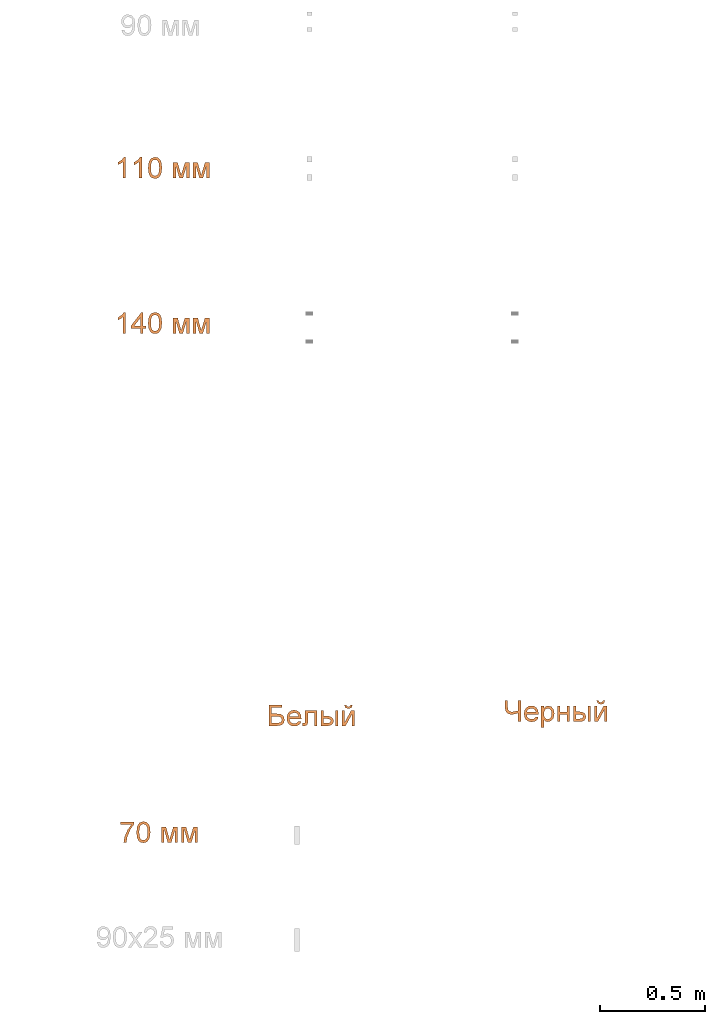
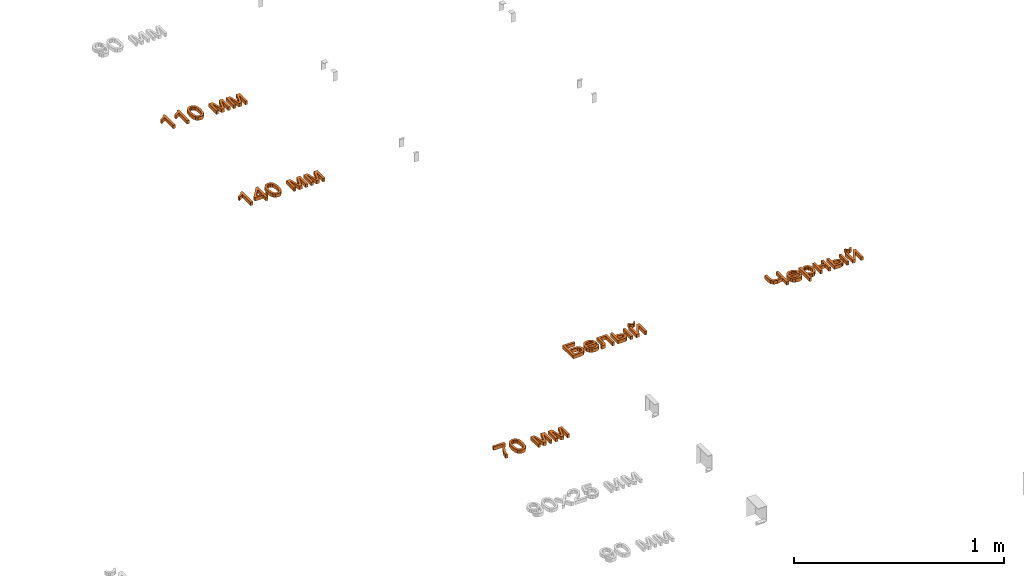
# One storey, part 46 of 87: 5 proxies.
"""IFC2X3 building model written with IfcOpenShell, lengths in millimetres."""

from ifc_helpers import new_model, entity, si_unit, converted_unit, derived_unit, direction, frame, frame_2d, origin, place, context, subcontext, project, spatial, polyline, rectangle, outline, extrude, element, save


model = new_model("IFC2X3")

# Units and contexts
model_context = context("Model", 3, precision=0.01, world=origin(), true_north=direction((6.12303176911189e-17, 1.0)))
body_context = subcontext(model_context, "Body", "Model", "MODEL_VIEW")
ifc_project = project(units=[si_unit("LENGTHUNIT", "METRE", prefix="MILLI"), si_unit("AREAUNIT", "SQUARE_METRE"), si_unit("VOLUMEUNIT", "CUBIC_METRE"), converted_unit("PLANEANGLEUNIT", "DEGREE", entity("IfcRatioMeasure", 0.0174532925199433), si_unit("PLANEANGLEUNIT", "RADIAN"), dimensions=[0, 0, 0, 0, 0, 0, 0]), si_unit("MASSUNIT", "GRAM", prefix="KILO"), derived_unit("MASSDENSITYUNIT", [(si_unit("MASSUNIT", "GRAM", prefix="KILO"), 1), (si_unit("LENGTHUNIT", "METRE"), -3)]), si_unit("TIMEUNIT", "SECOND"), si_unit("FREQUENCYUNIT", "HERTZ"), si_unit("THERMODYNAMICTEMPERATUREUNIT", "DEGREE_CELSIUS"), derived_unit("THERMALTRANSMITTANCEUNIT", [(si_unit("MASSUNIT", "GRAM", prefix="KILO"), 1), (si_unit("THERMODYNAMICTEMPERATUREUNIT", "KELVIN"), -1), (si_unit("TIMEUNIT", "SECOND"), -3)]), derived_unit("VOLUMETRICFLOWRATEUNIT", [(si_unit("LENGTHUNIT", "METRE"), 3), (si_unit("TIMEUNIT", "SECOND"), -1)]), si_unit("ELECTRICCURRENTUNIT", "AMPERE"), si_unit("ELECTRICVOLTAGEUNIT", "VOLT"), si_unit("POWERUNIT", "WATT"), si_unit("FORCEUNIT", "NEWTON", prefix="KILO"), si_unit("ILLUMINANCEUNIT", "LUX"), si_unit("LUMINOUSFLUXUNIT", "LUMEN"), si_unit("LUMINOUSINTENSITYUNIT", "CANDELA"), derived_unit("USERDEFINED", [(si_unit("MASSUNIT", "GRAM", prefix="KILO"), -1), (si_unit("LENGTHUNIT", "METRE"), -2), (si_unit("TIMEUNIT", "SECOND"), 3), (si_unit("LUMINOUSFLUXUNIT", "LUMEN"), 1)]), derived_unit("LINEARVELOCITYUNIT", [(si_unit("LENGTHUNIT", "METRE"), 1), (si_unit("TIMEUNIT", "SECOND"), -1)]), si_unit("PRESSUREUNIT", "PASCAL"), derived_unit("USERDEFINED", [(si_unit("LENGTHUNIT", "METRE"), -2), (si_unit("MASSUNIT", "GRAM", prefix="KILO"), 1), (si_unit("TIMEUNIT", "SECOND"), -2)])], contexts=[model_context])

# Site, building, storey
site_placement = place(None, origin())
site = spatial("IfcSite", under=ifc_project, at=site_placement, Name="Default", CompositionType="ELEMENT")
building_placement = place(site_placement, origin())
building = spatial("IfcBuilding", under=site, at=building_placement, Name="Наименование здания", CompositionType="ELEMENT")
storey_placement = place(building_placement, origin())
storey = spatial("IfcBuildingStorey", under=building, at=storey_placement, Name="Этаж 01", CompositionType="ELEMENT", Elevation=0.0)

# Proxies
proxy_1_placement = place(storey_placement, origin())
element("IfcBuildingElementProxy", 1, at=proxy_1_placement, inside=storey, Name="Текст модели:100 мм Arial", ObjectType="Текст модели:100 мм Arial", context=body_context, shape_type="SweptSolid", body=[
    extrude(outline(polyline([(-63.8793021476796, -16.918484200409), (36.5770080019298, -16.918484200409), (36.5770080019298, -8.825080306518), (23.2106288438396, 2.34626961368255), (11.4629304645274, 20.7526321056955), (-0.407395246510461, 20.7526321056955), (5.93243780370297, 7.53340574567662), (14.4059864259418, -4.36144543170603), (-63.8793021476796, -4.36144543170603), (-63.8793021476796, -16.918484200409)])), frame((12210.6706839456, -1090.83349704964, 0.0), z_axis=(0.0, 0.0, 1.0), x_axis=(0.0, 1.0, 0.0)), (0.0, 0.0, 1.0), 20.0),
    extrude(outline(polyline([(-63.8793021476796, -16.9184842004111), (36.5770080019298, -16.9184842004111), (36.5770080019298, -8.82508030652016), (23.2106288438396, 2.34626961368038), (11.4629304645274, 20.7526321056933), (-0.407395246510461, 20.7526321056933), (5.93243780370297, 7.53340574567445), (14.4059864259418, -4.3614454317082), (-63.8793021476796, -4.3614454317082), (-63.8793021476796, -16.9184842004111)])), frame((12287.5825464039, -1090.83349704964, 0.0), z_axis=(0.0, 0.0, 1.0), x_axis=(0.0, 1.0, 0.0)), (0.0, 0.0, 1.0), 20.0),
    extrude(outline(polyline([(-7.02884310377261, -33.3490673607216), (17.5323805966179, -33.3490673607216), (35.1984171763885, -27.6137612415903), (43.343984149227, -18.4876517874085), (47.0516941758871, -5.75150665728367), (46.716202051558, 4.48638208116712), (43.4465778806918, 13.0955287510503), (27.9444305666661, 25.6659118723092), (-0.314338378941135, 32.2325535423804), (-24.0296505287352, 32.367828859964), (-39.4143020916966, 28.026088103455), (-49.7293680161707, 18.9002174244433), (-54.4436715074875, 4.63998875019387), (-50.8676582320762, -14.1301059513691), (-35.4058547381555, -26.7333390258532), (-7.02884310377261, -33.3490673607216)]), holes=[polyline([(-5.77428774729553, -20.8548320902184), (-25.0157644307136, -17.3562860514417), (-36.7257089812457, -11.5717922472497), (-41.0962588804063, -4.77599682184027), (-41.9669219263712, 3.21464792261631), (-39.2244253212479, 11.2791292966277), (-32.865406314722, 17.2229259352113), (-20.9698370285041, 20.2947501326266), (-1.61768958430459, 19.7433141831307), (17.8514140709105, 16.2707701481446), (28.7803640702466, 10.7141596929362), (33.5546988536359, 3.61815959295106), (34.5599568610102, -4.47255337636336), (31.9421230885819, -12.1923199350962), (25.8471825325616, -18.1754808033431), (14.0250679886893, -21.4027476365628), (-5.77428774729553, -20.8548320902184)])]), frame((12368.2155352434, -1108.88962225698, 0.0), z_axis=(0.0, 0.0, 1.0), x_axis=(0.1018515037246, -0.994799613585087, 0.0)), (0.0, 0.0, 1.0), 20.0),
    extrude(outline(polyline([(-40.5839870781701, -38.4502715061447), (33.1886156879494, -38.4502715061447), (33.1886156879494, -25.893232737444), (-29.0570178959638, -25.893232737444), (33.1886156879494, -8.6273044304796), (33.1886156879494, 7.85380895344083), (-26.21206379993, 25.9045521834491), (33.1886156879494, 25.9045521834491), (33.1886156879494, 38.4615909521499), (-40.5839870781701, 38.4615909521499), (-40.5839870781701, 17.7620973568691), (18.4733358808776, -0.190544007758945), (-40.5839870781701, -16.8433356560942), (-40.5839870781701, -38.4502715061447)])), frame((12492.0661374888, -1121.52418350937, 0.0), z_axis=(0.0, 0.0, 1.0), x_axis=(0.0, -1.0, 0.0)), (0.0, 0.0, 1.0), 20.0),
    extrude(outline(polyline([(-40.5839870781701, -38.4502715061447), (33.1886156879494, -38.4502715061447), (33.1886156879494, -25.893232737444), (-29.0570178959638, -25.893232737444), (33.1886156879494, -8.6273044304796), (33.1886156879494, 7.85380895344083), (-26.21206379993, 25.9045521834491), (33.1886156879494, 25.9045521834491), (33.1886156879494, 38.4615909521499), (-40.5839870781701, 38.4615909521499), (-40.5839870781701, 17.7620973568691), (18.4733358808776, -0.190544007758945), (-40.5839870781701, -16.8433356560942), (-40.5839870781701, -38.4502715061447)])), frame((12587.8135581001, -1121.52418350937, 0.0), z_axis=(0.0, 0.0, 1.0), x_axis=(0.0, -1.0, 0.0)), (0.0, 0.0, 1.0), 20.0),
])
proxy_2_placement = place(storey_placement, origin())
element("IfcBuildingElementProxy", 2, at=proxy_2_placement, inside=storey, Name="Текст модели:100 мм Arial", ObjectType="Текст модели:100 мм Arial", context=body_context, shape_type="SweptSolid", body=[
    extrude(outline(polyline([(-63.8793021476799, -16.918484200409), (36.5770080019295, -16.918484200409), (36.5770080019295, -8.825080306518), (23.2106288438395, 2.34626961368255), (11.4629304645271, 20.7526321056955), (-0.407395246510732, 20.7526321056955), (5.93243780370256, 7.53340574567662), (14.4059864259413, -4.36144543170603), (-63.8793021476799, -4.36144543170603), (-63.8793021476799, -16.918484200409)])), frame((12210.6706839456, -1830.83349704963, 0.0), z_axis=(0.0, 0.0, 1.0), x_axis=(0.0, 1.0, 0.0)), (0.0, 0.0, 1.0), 20.0),
    extrude(outline(polyline([(-1.14154897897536, -36.3868737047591), (11.4154897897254, -36.3868737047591), (11.4154897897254, -12.8424260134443), (23.9725285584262, -12.8424260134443), (23.9725285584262, -0.285387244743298), (11.4154897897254, -0.285387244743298), (11.4154897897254, 62.4998065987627), (1.99771071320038, 62.4998065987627), (-46.660814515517, -0.285387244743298), (-46.660814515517, -12.8424260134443), (-1.14154897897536, -12.8424260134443), (-1.14154897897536, -36.3868737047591)]), holes=[polyline([(-1.14154897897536, -0.285387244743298), (-31.2097707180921, -0.285387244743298), (-1.14154897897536, 38.5139005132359), (-1.14154897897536, -0.285387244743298)])]), frame((12299.3640601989, -1858.32592549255, 0.0)), (0.0, 0.0, 1.0), 20.0),
    extrude(outline(polyline([(-7.02884310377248, -33.3490673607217), (17.532380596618, -33.3490673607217), (35.1984171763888, -27.6137612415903), (43.3439841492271, -18.4876517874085), (47.0516941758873, -5.75150665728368), (46.7162020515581, 4.48638208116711), (43.4465778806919, 13.0955287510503), (27.9444305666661, 25.6659118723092), (-0.314338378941, 32.2325535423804), (-24.0296505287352, 32.367828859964), (-39.4143020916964, 28.026088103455), (-49.7293680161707, 18.9002174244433), (-54.4436715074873, 4.63998875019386), (-50.867658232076, -14.1301059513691), (-35.4058547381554, -26.7333390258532), (-7.02884310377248, -33.3490673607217)]), holes=[polyline([(-5.77428774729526, -20.8548320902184), (-25.0157644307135, -17.3562860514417), (-36.7257089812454, -11.5717922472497), (-41.0962588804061, -4.77599682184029), (-41.966921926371, 3.21464792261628), (-39.2244253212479, 11.2791292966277), (-32.865406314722, 17.2229259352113), (-20.9698370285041, 20.2947501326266), (-1.61768958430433, 19.7433141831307), (17.8514140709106, 16.2707701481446), (28.7803640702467, 10.7141596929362), (33.554698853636, 3.61815959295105), (34.5599568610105, -4.47255337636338), (31.9421230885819, -12.1923199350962), (25.8471825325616, -18.1754808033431), (14.0250679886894, -21.4027476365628), (-5.77428774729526, -20.8548320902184)])]), frame((12368.2155352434, -1848.88962225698, 0.0), z_axis=(0.0, 0.0, 1.0), x_axis=(0.1018515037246, -0.994799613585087, 0.0)), (0.0, 0.0, 1.0), 20.0),
    extrude(outline(polyline([(-40.5839870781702, -38.4502715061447), (33.1886156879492, -38.4502715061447), (33.1886156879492, -25.893232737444), (-29.0570178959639, -25.893232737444), (33.1886156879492, -8.6273044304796), (33.1886156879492, 7.85380895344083), (-26.2120637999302, 25.9045521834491), (33.1886156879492, 25.9045521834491), (33.1886156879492, 38.4615909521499), (-40.5839870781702, 38.4615909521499), (-40.5839870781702, 17.7620973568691), (18.4733358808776, -0.190544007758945), (-40.5839870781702, -16.8433356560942), (-40.5839870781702, -38.4502715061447)])), frame((12492.0661374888, -1861.52418350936, 0.0), z_axis=(0.0, 0.0, 1.0), x_axis=(0.0, -1.0, 0.0)), (0.0, 0.0, 1.0), 20.0),
    extrude(outline(polyline([(-40.5839870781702, -38.4502715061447), (33.1886156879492, -38.4502715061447), (33.1886156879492, -25.893232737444), (-29.0570178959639, -25.893232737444), (33.1886156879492, -8.6273044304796), (33.1886156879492, 7.85380895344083), (-26.2120637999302, 25.9045521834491), (33.1886156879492, 25.9045521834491), (33.1886156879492, 38.4615909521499), (-40.5839870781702, 38.4615909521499), (-40.5839870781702, 17.7620973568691), (18.4733358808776, -0.190544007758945), (-40.5839870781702, -16.8433356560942), (-40.5839870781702, -38.4502715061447)])), frame((12587.8135581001, -1861.52418350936, 0.0), z_axis=(0.0, 0.0, 1.0), x_axis=(0.0, -1.0, 0.0)), (0.0, 0.0, 1.0), 20.0),
])
proxy_3_placement = place(storey_placement, origin())
element("IfcBuildingElementProxy", 3, at=proxy_3_placement, inside=storey, Name="Текст модели:100 мм Arial", ObjectType="Текст модели:100 мм Arial", context=body_context, shape_type="SweptSolid", body=[
    extrude(outline(polyline([(-50.9950475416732, -42.7620371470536), (49.4612626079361, -42.7620371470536), (49.4612626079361, -4.42873324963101), (45.2428823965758, 17.8649156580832), (34.3658380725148, 27.7118903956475), (20.055228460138, 31.0105656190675), (3.57411507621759, 26.3752524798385), (-6.06439319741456, 14.0389429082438), (-8.61504169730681, -6.68507615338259), (-8.61504169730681, -30.2049983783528), (-38.4380087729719, -30.2049983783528), (-38.4380087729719, 20.0231566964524), (-50.9950475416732, 20.0231566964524), (-50.9950475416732, -42.7620371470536)]), holes=[polyline([(36.9042238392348, -30.2049983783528), (3.9419970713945, -30.2049983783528), (3.9419970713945, -12.2523570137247), (5.24184678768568, 6.66904027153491), (10.490296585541, 15.3387926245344), (20.3250085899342, 18.4535268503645), (27.5784152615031, 17.0923634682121), (32.7594200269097, 13.0088733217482), (36.9042238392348, -3.30056179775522), (36.9042238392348, -30.2049983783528)])]), frame((12953.8285451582, -3717.16616428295, 0.0), z_axis=(0.0, 0.0, 1.0), x_axis=(0.0, -1.0, 0.0)), (0.0, 0.0, 1.0), 20.0),
    extrude(outline(polyline([(-8.10128238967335, -20.3751729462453), (-15.5352214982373, -30.3140016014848), (-5.7840037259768, -33.5775071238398), (4.12185089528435, -33.3132173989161), (13.8776168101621, -29.448077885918), (23.1785684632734, -21.9090340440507), (31.6380426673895, -9.59237957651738), (34.1620486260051, 3.74135328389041), (30.6040508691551, 17.2442201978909), (20.8175139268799, 30.0682768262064), (7.27698270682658, 39.784672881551), (-6.66179525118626, 43.1117813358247), (-19.9642596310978, 40.4221234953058), (-31.5958501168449, 32.0882206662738), (-39.2435519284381, 20.5090048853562), (-41.310682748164, 7.34319797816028), (-37.4373707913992, -6.34962495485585), (-27.2637442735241, -19.5098888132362), (-24.7804584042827, -21.810680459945), (14.4643272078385, 18.7422646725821), (19.7071986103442, 10.6437992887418), (21.1614672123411, 2.21005051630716), (19.1472085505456, -5.98136753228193), (13.9844981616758, -13.3528407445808), (3.53684605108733, -20.3751729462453), (-8.10128238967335, -20.3751729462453)]), holes=[polyline([(5.44081225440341, 27.4746984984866), (-25.1227061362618, -4.10760383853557), (-29.803881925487, 7.41909510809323), (-27.885134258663, 15.7498710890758), (-22.5382240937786, 23.3910349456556), (-8.40970331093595, 31.2368652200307), (-1.08072680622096, 30.9147288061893), (5.44081225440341, 27.4746984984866)])]), frame((13031.9105930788, -3736.30487606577, 0.0), z_axis=(0.0, 0.0, -1.0), x_axis=(-0.695421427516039, -0.718602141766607, 0.0)), (0.0, 0.0, -1.0), 20.0),
    extrude(outline(polyline([(-49.3689973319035, 12.5447760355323), (-49.3689973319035, -43.9618984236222), (24.3300290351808, -43.9618984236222), (24.3300290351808, -31.4048596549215), (-36.8119585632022, -31.4048596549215), (-36.8119585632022, -0.0122627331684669), (-1.6179143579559, -0.0122627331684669), (14.6179443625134, 0.833865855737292), (21.472812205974, 5.4814417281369), (24.4036054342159, 16.468850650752), (23.7659433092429, 26.6714446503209), (11.8465666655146, 26.6714446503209), (11.8465666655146, 21.0551128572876), (11.0740144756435, 15.3774673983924), (8.62146784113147, 13.1088617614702), (-2.32915288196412, 12.5447760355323), (-49.3689973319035, 12.5447760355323)])), frame((13096.2705671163, -3742.22382145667, 0.0), z_axis=(0.0, 0.0, -1.0), x_axis=(0.0, -1.0, 0.0)), (0.0, 0.0, -1.0), 20.0),
    extrude(outline(polyline([(-42.39887158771, -34.5139341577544), (31.3737311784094, -34.5139341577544), (31.3737311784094, -3.73447389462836), (29.653882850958, 9.31613988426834), (24.4943378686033, 18.2526066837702), (16.9129030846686, 23.4121516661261), (7.92738535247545, 25.1319999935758), (-1.94104916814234, 23.081057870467), (-9.42438208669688, 16.928231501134), (-14.142468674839, 6.98622058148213), (-15.7151642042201, -6.43227519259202), (-15.7151642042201, -21.9568953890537), (-42.39887158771, -21.9568953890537), (-42.39887158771, -34.5139341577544)]), holes=[polyline([(18.8166924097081, -21.9568953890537), (-3.15812543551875, -21.9568953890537), (-3.15812543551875, -7.41329384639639), (0.226388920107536, 8.88387853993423), (7.95191081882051, 12.5749612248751), (16.1802047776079, 7.5962915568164), (18.8166924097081, -9.05650009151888), (18.8166924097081, -21.9568953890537)])]), frame((13193.5819578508, -3735.25369571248, 0.0), z_axis=(0.0, 0.0, 1.0), x_axis=(0.0, -1.0, 0.0)), (0.0, 0.0, 1.0), 20.0),
    extrude(outline(polyline([(-11.1429830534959, -6.6504991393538), (-15.3141401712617, -15.0941956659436), (-0.0922190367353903, -15.8161107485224), (10.2631635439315, -5.84547547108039), (12.4162171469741, 9.42172447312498), (2.76087400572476, 21.4951559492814), (-1.41028311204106, 13.0514594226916), (3.36929976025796, 6.75127419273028), (2.3191368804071, -0.662833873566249), (-3.16906596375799, -6.6504991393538), (-11.1429830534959, -6.6504991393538)])), frame((13289.4368188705, -3673.21605694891, 0.0), z_axis=(0.0, 0.0, -1.0), x_axis=(-0.442902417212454, -0.896569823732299, 0.0)), (0.0, 0.0, -1.0), 20.0),
    extrude(outline(polyline([(-36.9206370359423, -29.8425874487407), (36.8519657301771, -29.8425874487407), (36.8519657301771, -13.4105249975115), (-19.0660975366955, 17.2463079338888), (36.8519657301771, 17.2463079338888), (36.8519657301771, 29.8033467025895), (-36.9206370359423, 29.8033467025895), (-36.9206370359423, 13.5674879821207), (19.3407827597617, -17.28554868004), (-36.9206370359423, -17.28554868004), (-36.9206370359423, -29.8425874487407)])), frame((13289.3669212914, -3729.77546116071, 0.0), z_axis=(0.0, 0.0, 1.0), x_axis=(0.0, -1.0, 0.0)), (0.0, 0.0, 1.0), 20.0),
    extrude(rectangle(XDim=73.7726027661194, YDim=12.5570387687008, at=frame_2d((-2.70006239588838e-13, 1.08268949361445e-12), x_axis=(1.0, 0.0))), frame((13234.4102563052, -3729.74112550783, 0.0), z_axis=(0.0, 0.0, 1.0), x_axis=(0.0, -1.0, 0.0)), (0.0, 0.0, 1.0), 20.0),
])
proxy_4_placement = place(storey_placement, origin())
element("IfcBuildingElementProxy", 4, at=proxy_4_placement, inside=storey, Name="Текст модели:100 мм Arial", ObjectType="Текст модели:100 мм Arial", context=body_context, shape_type="SweptSolid", body=[
    extrude(outline(polyline([(-57.0521744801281, -41.5683661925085), (43.4041356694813, -41.5683661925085), (43.4041356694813, -29.0113274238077), (-5.30344049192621, -29.0113274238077), (-11.5329089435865, 0.689012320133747), (-6.37029827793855, 15.1835629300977), (1.59741260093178, 19.7085114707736), (15.1753239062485, 21.2168276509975), (43.4041356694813, 21.2168276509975), (43.4041356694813, 33.7738664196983), (13.4830667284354, 33.7738664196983), (-6.51745107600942, 31.0883278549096), (-19.1235407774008, 20.4442754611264), (-24.0899477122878, 2.0869639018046), (-16.830409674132, -29.0113274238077), (-57.0521744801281, -29.0113274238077), (-57.0521744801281, -41.5683661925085)])), frame((14070.0647556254, -3689.07720350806, 0.0), z_axis=(0.0, 0.0, 1.0), x_axis=(0.0, 1.0, 0.0)), (0.0, 0.0, 1.0), 20.0),
    extrude(outline(polyline([(-8.10128238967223, -20.3751729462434), (-15.5352214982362, -30.3140016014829), (-5.78400372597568, -33.5775071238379), (4.12185089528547, -33.3132173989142), (13.8776168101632, -29.448077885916), (23.1785684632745, -21.9090340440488), (31.6380426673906, -9.59237957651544), (34.1620486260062, 3.74135328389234), (30.6040508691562, 17.2442201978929), (20.817513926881, 30.0682768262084), (7.2769827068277, 39.7846728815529), (-6.66179525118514, 43.1117813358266), (-19.9642596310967, 40.4221234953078), (-31.5958501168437, 32.0882206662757), (-39.243551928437, 20.5090048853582), (-41.3106827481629, 7.34319797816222), (-37.4373707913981, -6.34962495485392), (-27.263744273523, -19.5098888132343), (-24.7804584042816, -21.8106804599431), (14.4643272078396, 18.742264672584), (19.7071986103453, 10.6437992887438), (21.1614672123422, 2.21005051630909), (19.1472085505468, -5.98136753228), (13.984498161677, -13.3528407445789), (3.53684605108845, -20.3751729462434), (-8.10128238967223, -20.3751729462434)]), holes=[polyline([(5.44081225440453, 27.4746984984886), (-25.1227061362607, -4.10760383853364), (-29.8038819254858, 7.41909510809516), (-27.8851342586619, 15.7498710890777), (-22.5382240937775, 23.3910349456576), (-8.40970331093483, 31.2368652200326), (-1.08072680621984, 30.9147288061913), (5.44081225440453, 27.4746984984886)])]), frame((14163.4134936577, -3715.80682716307, 0.0), z_axis=(0.0, 0.0, -1.0), x_axis=(-0.695421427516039, -0.718602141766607, 0.0)), (0.0, 0.0, -1.0), 20.0),
    extrude(outline(polyline([(-28.8983569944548, -61.2335493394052), (-16.3413182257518, -61.2335493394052), (-16.3413182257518, -23.1700255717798), (-8.38280439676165, -31.3247431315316), (2.54329085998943, -34.5498419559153), (18.4235303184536, -29.7305878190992), (29.9259740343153, -15.8736993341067), (33.8868368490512, 4.47017499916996), (30.3796951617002, 23.8207679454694), (19.9808974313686, 37.505978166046), (4.0638697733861, 42.3620205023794), (-7.65930313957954, 38.8916670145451), (-16.3413182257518, 28.4806065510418), (-16.3413182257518, 40.7923906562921), (-28.8983569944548, 40.7923906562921), (-28.8983569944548, -61.2335493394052)]), holes=[polyline([(-16.3413182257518, 3.31747808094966), (-14.8912500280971, 14.7064915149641), (-10.541045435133, 23.0236902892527), (-4.30851130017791, 28.1096588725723), (2.78854552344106, 29.8049817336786), (9.85801119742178, 28.2108264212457), (15.8606190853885, 23.4283604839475), (19.9625033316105, 15.4453211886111), (21.3297980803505, 4.24944580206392), (19.9287808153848, -7.43080754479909), (15.7257290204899, -15.5916564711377), (9.56063991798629, -20.3925165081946), (2.2735107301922, -21.9928031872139), (-4.8971224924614, -20.4476988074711), (-10.9089274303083, -15.8123856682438), (-14.983220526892, -7.93971097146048), (-16.3413182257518, 3.31747808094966)])]), frame((14237.8485292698, -3713.14916587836, 0.0)), (0.0, 0.0, 1.0), 20.0),
    extrude(outline(polyline([(-36.1014864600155, -29.0381521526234), (37.6711163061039, -29.0381521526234), (37.6711163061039, -16.4811133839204), (4.7088895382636, -16.4811133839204), (4.7088895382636, 16.4811133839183), (37.6711163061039, 16.4811133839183), (37.6711163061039, 29.0381521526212), (-36.1014864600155, 29.0381521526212), (-36.1014864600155, 16.4811133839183), (-7.84814923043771, 16.4811133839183), (-7.84814923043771, -16.4811133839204), (-36.1014864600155, -16.4811133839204), (-36.1014864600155, -29.0381521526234)])), frame((14314.9001868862, -3708.45826168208, 0.0), z_axis=(0.0, 0.0, 1.0), x_axis=(0.0, -1.0, 0.0)), (0.0, 0.0, 1.0), 20.0),
    extrude(outline(polyline([(-42.3988715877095, -34.5139341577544), (31.37373117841, -34.5139341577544), (31.37373117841, -3.73447389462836), (29.6538828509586, 9.31613988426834), (24.4943378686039, 18.2526066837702), (16.9129030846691, 23.4121516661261), (7.927385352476, 25.131999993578), (-1.9410491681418, 23.081057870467), (-9.42438208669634, 16.928231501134), (-14.1424686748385, 6.98622058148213), (-15.7151642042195, -6.43227519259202), (-15.7151642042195, -21.9568953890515), (-42.3988715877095, -21.9568953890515), (-42.3988715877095, -34.5139341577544)]), holes=[polyline([(18.8166924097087, -21.9568953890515), (-3.15812543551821, -21.9568953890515), (-3.15812543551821, -7.41329384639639), (0.226388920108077, 8.8838785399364), (7.95191081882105, 12.5749612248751), (16.1802047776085, 7.5962915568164), (18.8166924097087, -9.05650009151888), (18.8166924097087, -21.9568953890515)])]), frame((14397.2878313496, -3714.75564680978, 0.0), z_axis=(0.0, 0.0, 1.0), x_axis=(0.0, -1.0, 0.0)), (0.0, 0.0, 1.0), 20.0),
    extrude(outline(polyline([(-11.1429830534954, -6.65049913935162), (-15.3141401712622, -15.0941956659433), (-0.0922190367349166, -15.8161107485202), (10.263163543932, -5.84547547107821), (12.4162171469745, 9.42172447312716), (2.76087400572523, 21.4951559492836), (-1.41028311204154, 13.0514594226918), (3.36929976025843, 6.75127419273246), (2.31913688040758, -0.662833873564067), (-3.16906596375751, -6.65049913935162), (-11.1429830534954, -6.65049913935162)])), frame((14493.1426923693, -3652.71800804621, 0.0), z_axis=(0.0, 0.0, -1.0), x_axis=(-0.442902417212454, -0.896569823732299, 0.0)), (0.0, 0.0, -1.0), 20.0),
    extrude(outline(polyline([(-36.9206370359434, -29.8425874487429), (36.851965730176, -29.8425874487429), (36.851965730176, -13.4105249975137), (-19.0660975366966, 17.2463079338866), (36.851965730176, 17.2463079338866), (36.851965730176, 29.8033467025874), (-36.9206370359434, 29.8033467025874), (-36.9206370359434, 13.5674879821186), (19.3407827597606, -17.2855486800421), (-36.9206370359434, -17.2855486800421), (-36.9206370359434, -29.8425874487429)])), frame((14493.0727947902, -3709.27741225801, 0.0), z_axis=(0.0, 0.0, 1.0), x_axis=(0.0, -1.0, 0.0)), (0.0, 0.0, 1.0), 20.0),
    extrude(rectangle(XDim=73.7726027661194, YDim=12.5570387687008, at=frame_2d((-2.70006239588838e-13, 1.08268949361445e-12), x_axis=(1.0, 0.0))), frame((14438.1161298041, -3709.24307660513, 0.0), z_axis=(0.0, 0.0, 1.0), x_axis=(0.0, -1.0, 0.0)), (0.0, 0.0, 1.0), 20.0),
])
proxy_5_placement = place(storey_placement, origin())
element("IfcBuildingElementProxy", 5, at=proxy_5_placement, inside=storey, Name="Текст модели:100 мм Arial", ObjectType="Текст модели:100 мм Arial", context=body_context, shape_type="SweptSolid", body=[
    extrude(outline(polyline([(-33.1249866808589, -28.4339338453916), (-33.1249866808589, -40.9909726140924), (32.7994668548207, -40.9909726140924), (32.7994668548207, -30.837429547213), (14.0987987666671, -3.82262836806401), (-0.211810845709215, 30.5988636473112), (-4.87164945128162, 57.8957076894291), (-17.4286882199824, 57.8957076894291), (-12.4377558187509, 29.5687940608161), (1.25971713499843, -2.44920225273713), (20.2424280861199, -28.4339338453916), (-33.1249866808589, -28.4339338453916)])), frame((12235.1846956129, -4265.14171527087, 0.0), z_axis=(0.0, 0.0, -1.0), x_axis=(1.0, 0.0, 0.0)), (0.0, 0.0, -1.0), 20.0),
    extrude(outline(polyline([(-7.02884310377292, -33.349067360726), (17.5323805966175, -33.349067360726), (35.198417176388, -27.6137612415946), (43.3439841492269, -18.4876517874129), (47.0516941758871, -5.75150665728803), (46.7162020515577, 4.48638208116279), (43.4465778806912, 13.095528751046), (27.944430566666, 25.6659118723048), (-0.314338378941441, 32.2325535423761), (-24.0296505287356, 32.3678288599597), (-39.4143020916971, 28.0260881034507), (-49.7293680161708, 18.900217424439), (-54.4436715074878, 4.63998875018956), (-50.8676582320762, -14.1301059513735), (-35.4058547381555, -26.7333390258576), (-7.02884310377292, -33.349067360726)]), holes=[polyline([(-5.7742877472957, -20.8548320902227), (-25.0157644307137, -17.3562860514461), (-36.7257089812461, -11.571792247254), (-41.0962588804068, -4.77599682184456), (-41.9669219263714, 3.21464792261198), (-39.2244253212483, 11.2791292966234), (-32.8654063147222, 17.222925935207), (-20.9698370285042, 20.2947501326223), (-1.61768958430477, 19.7433141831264), (17.8514140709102, 16.2707701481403), (28.7803640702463, 10.7141596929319), (33.5546988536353, 3.61815959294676), (34.5599568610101, -4.4725533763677), (31.9421230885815, -12.1923199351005), (25.8471825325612, -18.1754808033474), (14.025067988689, -21.4027476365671), (-5.7742877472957, -20.8548320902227)])]), frame((12312.8631089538, -4277.21424601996, 0.0), z_axis=(0.0, 0.0, 1.0), x_axis=(0.1018515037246, -0.994799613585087, 0.0)), (0.0, 0.0, 1.0), 20.0),
    extrude(outline(polyline([(-40.58398707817, -38.4502715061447), (33.1886156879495, -38.4502715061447), (33.1886156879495, -25.893232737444), (-29.0570178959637, -25.893232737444), (33.1886156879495, -8.6273044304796), (33.1886156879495, 7.85380895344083), (-26.2120637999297, 25.9045521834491), (33.1886156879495, 25.9045521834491), (33.1886156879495, 38.4615909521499), (-40.58398707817, 38.4615909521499), (-40.58398707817, 17.7620973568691), (18.4733358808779, -0.190544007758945), (-40.58398707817, -16.8433356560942), (-40.58398707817, -38.4502715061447)])), frame((12436.7137111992, -4289.84880727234, 0.0), z_axis=(0.0, 0.0, 1.0), x_axis=(0.0, -1.0, 0.0)), (0.0, 0.0, 1.0), 20.0),
    extrude(outline(polyline([(-40.58398707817, -38.4502715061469), (33.1886156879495, -38.4502715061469), (33.1886156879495, -25.8932327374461), (-29.0570178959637, -25.8932327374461), (33.1886156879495, -8.62730443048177), (33.1886156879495, 7.85380895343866), (-26.2120637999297, 25.9045521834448), (33.1886156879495, 25.9045521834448), (33.1886156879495, 38.4615909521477), (-40.58398707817, 38.4615909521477), (-40.58398707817, 17.762097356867), (18.4733358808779, -0.19054400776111), (-40.58398707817, -16.8433356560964), (-40.58398707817, -38.4502715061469)])), frame((12532.4611318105, -4289.84880727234, 0.0), z_axis=(0.0, 0.0, 1.0), x_axis=(0.0, -1.0, 0.0)), (0.0, 0.0, 1.0), 20.0),
])

save(model, "model.ifc")
